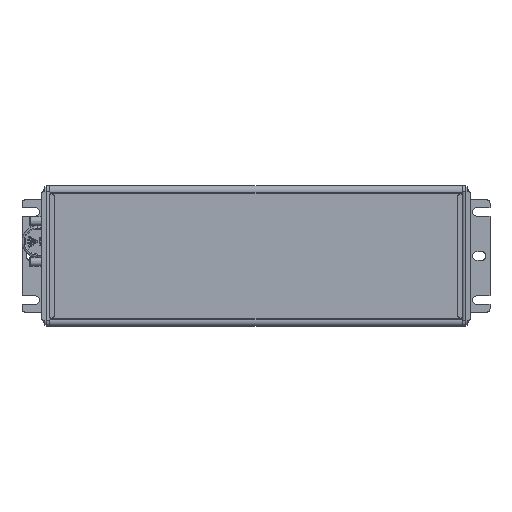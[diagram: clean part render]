
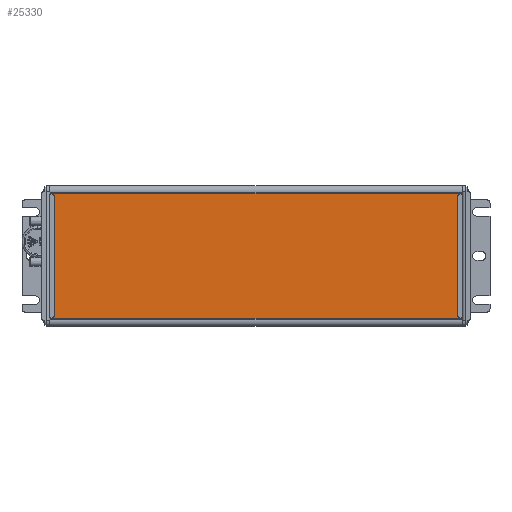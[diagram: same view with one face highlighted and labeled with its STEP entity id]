
A CAD part, front view. The second image highlights one B-rep face of the part: STEP entity #25330.
In plain terms, the highlighted planar face has unit normal (0, -1, 0) as drawn and (0, 1, 0) by its records, which use the part's own axes.
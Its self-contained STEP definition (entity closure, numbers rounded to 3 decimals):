
#19620=CARTESIAN_POINT('',(-29.,17.7,98.1));
#19630=VERTEX_POINT('',#19620);
#19790=CARTESIAN_POINT('',(-30.,17.7,99.1));
#19800=VERTEX_POINT('',#19790);
#19830=CARTESIAN_POINT('',(-29.,17.7,99.1));
#19840=DIRECTION('',(0.,1.,0.));
#19850=DIRECTION('',(0.,0.,1.));
#19860=AXIS2_PLACEMENT_3D('',#19830,#19840,#19850);
#19870=CIRCLE('',#19860,1.);
#19880=EDGE_CURVE('',#19630,#19800,#19870,.T.);
#20740=CARTESIAN_POINT('',(-29.,17.7,-98.1));
#20750=VERTEX_POINT('',#20740);
#20800=CARTESIAN_POINT('',(-29.,17.7,-99.1));
#20810=DIRECTION('',(0.,-1.,0.));
#20820=DIRECTION('',(0.,0.,1.));
#20830=AXIS2_PLACEMENT_3D('',#20800,#20810,#20820);
#20840=CIRCLE('',#20830,1.);
#20850=CARTESIAN_POINT('',(-30.,17.7,-99.1));
#20860=VERTEX_POINT('',#20850);
#20870=EDGE_CURVE('',#20750,#20860,#20840,.T.);
#24080=CARTESIAN_POINT('',(-30.406,17.7,100.3));
#24090=VERTEX_POINT('',#24080);
#24180=CARTESIAN_POINT('',(-30.406,17.7,-100.3));
#24190=VERTEX_POINT('',#24180);
#24220=CARTESIAN_POINT('',(-30.406,17.7,99.5));
#24230=DIRECTION('',(0.,0.,-1.));
#24240=VECTOR('',#24230,1.);
#24250=LINE('',#24220,#24240);
#24260=EDGE_CURVE('',#24090,#24190,#24250,.T.);
#24310=CARTESIAN_POINT('',(0.,17.7,99.5));
#24320=DIRECTION('',(0.,-1.,0.));
#24330=DIRECTION('',(0.,0.,-1.));
#24340=AXIS2_PLACEMENT_3D('',#24310,#24320,#24330);
#24350=PLANE('',#24340);
#24360=CARTESIAN_POINT('',(0.,17.7,-100.3));
#24370=DIRECTION('',(-1.,0.,0.));
#24380=VECTOR('',#24370,1.);
#24390=LINE('',#24360,#24380);
#24400=CARTESIAN_POINT('',(-30.,17.7,-100.3));
#24410=VERTEX_POINT('',#24400);
#24420=EDGE_CURVE('',#24410,#24190,#24390,.T.);
#24430=ORIENTED_EDGE('',*,*,#24420,.T.);
#24440=CARTESIAN_POINT('',(-30.,17.7,-100.3));
#24450=DIRECTION('',(0.,0.,1.));
#24460=VECTOR('',#24450,1.);
#24470=LINE('',#24440,#24460);
#24480=EDGE_CURVE('',#24410,#20860,#24470,.T.);
#24490=ORIENTED_EDGE('',*,*,#24480,.F.);
#24500=ORIENTED_EDGE('',*,*,#20870,.T.);
#24510=CARTESIAN_POINT('',(0.,17.7,-98.1));
#24520=DIRECTION('',(-1.,0.,0.));
#24530=VECTOR('',#24520,1.);
#24540=LINE('',#24510,#24530);
#24550=CARTESIAN_POINT('',(29.,17.7,-98.1));
#24560=VERTEX_POINT('',#24550);
#24570=EDGE_CURVE('',#24560,#20750,#24540,.T.);
#24580=ORIENTED_EDGE('',*,*,#24570,.T.);
#24590=CARTESIAN_POINT('',(29.,17.7,-99.1));
#24600=DIRECTION('',(0.,1.,0.));
#24610=DIRECTION('',(0.,0.,-1.));
#24620=AXIS2_PLACEMENT_3D('',#24590,#24600,#24610);
#24630=CIRCLE('',#24620,1.);
#24640=CARTESIAN_POINT('',(30.,17.7,-99.1));
#24650=VERTEX_POINT('',#24640);
#24660=EDGE_CURVE('',#24560,#24650,#24630,.T.);
#24670=ORIENTED_EDGE('',*,*,#24660,.F.);
#24680=CARTESIAN_POINT('',(30.,17.7,-100.3));
#24690=DIRECTION('',(0.,0.,1.));
#24700=VECTOR('',#24690,1.);
#24710=LINE('',#24680,#24700);
#24720=CARTESIAN_POINT('',(30.,17.7,-100.3));
#24730=VERTEX_POINT('',#24720);
#24740=EDGE_CURVE('',#24730,#24650,#24710,.T.);
#24750=ORIENTED_EDGE('',*,*,#24740,.T.);
#24760=CARTESIAN_POINT('',(30.406,17.7,-100.3));
#24770=VERTEX_POINT('',#24760);
#24780=EDGE_CURVE('',#24770,#24730,#24390,.T.);
#24790=ORIENTED_EDGE('',*,*,#24780,.T.);
#24800=CARTESIAN_POINT('',(30.406,17.7,-99.5));
#24810=DIRECTION('',(0.,0.,1.));
#24820=VECTOR('',#24810,1.);
#24830=LINE('',#24800,#24820);
#24840=CARTESIAN_POINT('',(30.406,17.7,100.3));
#24850=VERTEX_POINT('',#24840);
#24860=EDGE_CURVE('',#24770,#24850,#24830,.T.);
#24870=ORIENTED_EDGE('',*,*,#24860,.F.);
#24880=CARTESIAN_POINT('',(0.,17.7,100.3));
#24890=DIRECTION('',(1.,0.,0.));
#24900=VECTOR('',#24890,1.);
#24910=LINE('',#24880,#24900);
#24920=CARTESIAN_POINT('',(30.,17.7,100.3));
#24930=VERTEX_POINT('',#24920);
#24940=EDGE_CURVE('',#24930,#24850,#24910,.T.);
#24950=ORIENTED_EDGE('',*,*,#24940,.T.);
#24960=CARTESIAN_POINT('',(30.,17.7,100.3));
#24970=DIRECTION('',(0.,0.,-1.));
#24980=VECTOR('',#24970,1.);
#24990=LINE('',#24960,#24980);
#25000=CARTESIAN_POINT('',(30.,17.7,99.1));
#25010=VERTEX_POINT('',#25000);
#25020=EDGE_CURVE('',#24930,#25010,#24990,.T.);
#25030=ORIENTED_EDGE('',*,*,#25020,.F.);
#25040=CARTESIAN_POINT('',(29.,17.7,99.1));
#25050=DIRECTION('',(0.,-1.,0.));
#25060=DIRECTION('',(0.,0.,-1.));
#25070=AXIS2_PLACEMENT_3D('',#25040,#25050,#25060);
#25080=CIRCLE('',#25070,1.);
#25090=CARTESIAN_POINT('',(29.,17.7,98.1));
#25100=VERTEX_POINT('',#25090);
#25110=EDGE_CURVE('',#25100,#25010,#25080,.T.);
#25120=ORIENTED_EDGE('',*,*,#25110,.T.);
#25130=CARTESIAN_POINT('',(0.,17.7,98.1));
#25140=DIRECTION('',(1.,0.,0.));
#25150=VECTOR('',#25140,1.);
#25160=LINE('',#25130,#25150);
#25170=EDGE_CURVE('',#19630,#25100,#25160,.T.);
#25180=ORIENTED_EDGE('',*,*,#25170,.T.);
#25190=ORIENTED_EDGE('',*,*,#19880,.F.);
#25200=CARTESIAN_POINT('',(-30.,17.7,100.3));
#25210=DIRECTION('',(0.,0.,-1.));
#25220=VECTOR('',#25210,1.);
#25230=LINE('',#25200,#25220);
#25240=CARTESIAN_POINT('',(-30.,17.7,100.3));
#25250=VERTEX_POINT('',#25240);
#25260=EDGE_CURVE('',#25250,#19800,#25230,.T.);
#25270=ORIENTED_EDGE('',*,*,#25260,.T.);
#25280=EDGE_CURVE('',#24090,#25250,#24910,.T.);
#25290=ORIENTED_EDGE('',*,*,#25280,.T.);
#25300=ORIENTED_EDGE('',*,*,#24260,.F.);
#25310=EDGE_LOOP('',(#25300,#25290,#25270,#25190,#25180,#25120,#25030,
#24950,#24870,#24790,#24750,#24670,#24580,#24500,#24490,#24430));
#25320=FACE_OUTER_BOUND('',#25310,.T.);
#25330=ADVANCED_FACE('',(#25320),#24350,.F.);
